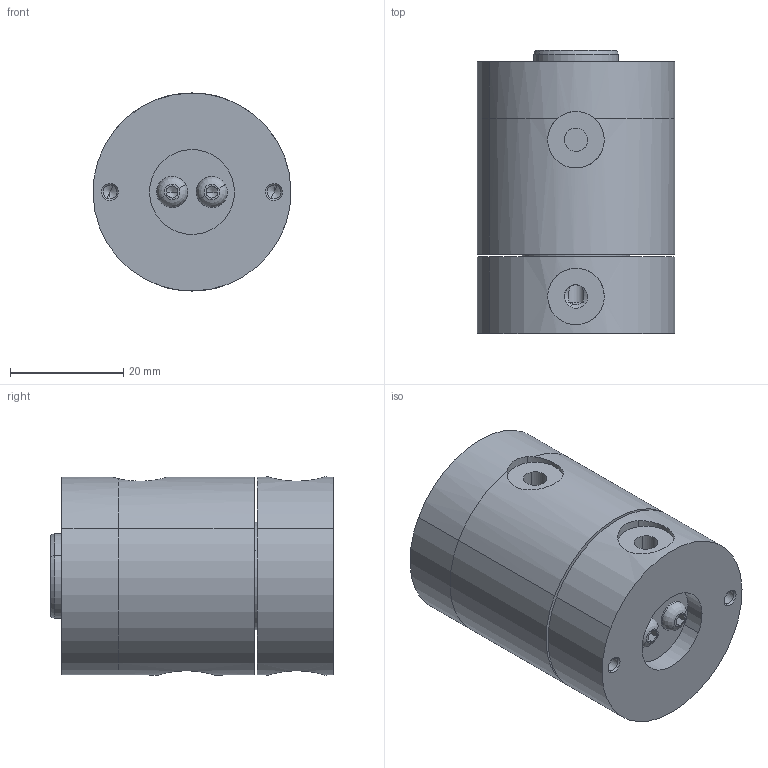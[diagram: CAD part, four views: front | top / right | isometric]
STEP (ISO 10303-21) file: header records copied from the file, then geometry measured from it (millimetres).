
FILE_DESCRIPTION(('CATIA V5 STEP Exchange'),'2;1');
FILE_NAME('\\Kjf-102\kjf_tc\Hydraulic_Clamp\Standard\ROTARY\AIR\RTCH-0202A\RTCH-0202A_A.stp','2025-06-24T02:57:28+00:00',('none'),('none'),'CATIA Version 5 Release 19 SP 9 (IN-10)','CATIA V5 STEP AP203','none');
FILE_SCHEMA(('CONFIG_CONTROL_DESIGN'));
Length unit declared in the file: millimetre
Products named in the file (1): RTCH-0202A_-
Assembly tree (9 placements, depth 2):
  RTCH-0202A_-
    #58
    #1057
    #2613
    #3434
    #3603  x2
    #5118
    #5522  x2
Bounding box: 34.99 x 50 x 35 mm (x, y, z)
Volume: 42849.6 mm3; surface area: 22216 mm2
Topology: 57 solids, 57 shells, 348 faces, 868 edges, 438 vertices
Faces by surface type: cylinder 111, sphere 100, cone 54, plane 51, torus 28, revolution 4
Entity records: 6119 total; most frequent: CARTESIAN_POINT 1261, ORIENTED_EDGE 972, DIRECTION 774, EDGE_CURVE 486, AXIS2_PLACEMENT_3D 450, VERTEX_POINT 323, EDGE_LOOP 293, CIRCLE 288
